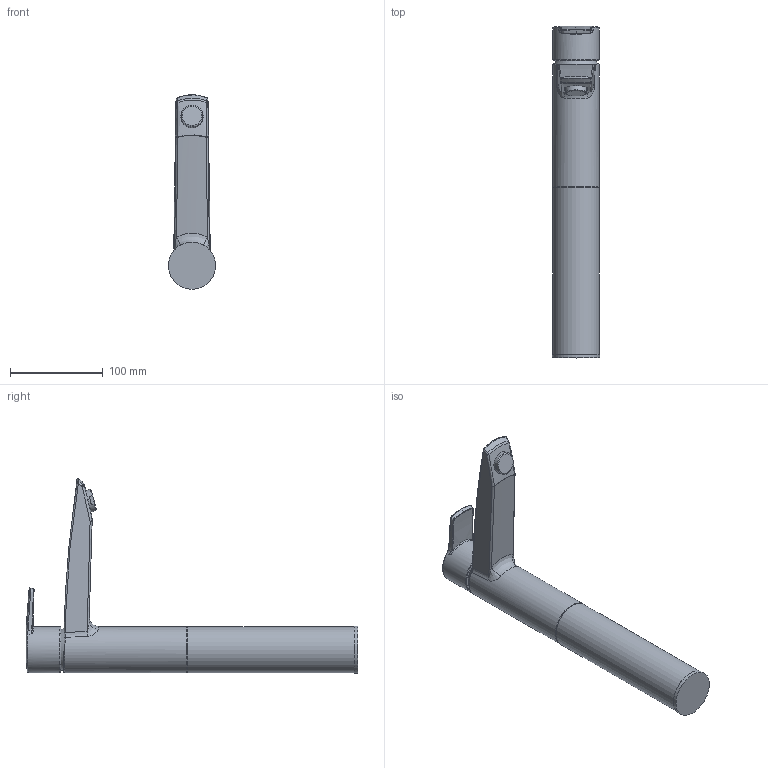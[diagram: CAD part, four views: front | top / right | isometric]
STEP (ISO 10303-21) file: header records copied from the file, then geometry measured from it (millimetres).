
FILE_DESCRIPTION (( 'STEP AP203' ), '1' );
FILE_NAME ('2801+2801F.STEP', '2017-03-09T05:48:43', ( '' ), ( '' ), 'SwSTEP 2.0', 'SolidWorks 2016', '' );
FILE_SCHEMA (( 'CONFIG_CONTROL_DESIGN' ));
Length unit declared in the file: millimetre
Products named in the file (1): 2801+2801F
Bounding box: 51 x 358.84 x 210.19 mm (x, y, z)
Volume: 843295.4 mm3; surface area: 81744.2 mm2
Topology: 1 solids, 1 shells, 87 faces, 208 edges, 127 vertices
Faces by surface type: bspline 64, plane 8, torus 6, cylinder 5, sphere 3, cone 1
Full cylindrical faces by diameter (mm): 24 x1, 49.6 x1, 50 x2, 51 x1
Entity records: 10398 total; most frequent: CARTESIAN_POINT 8906, ORIENTED_EDGE 380, EDGE_CURVE 190, DIRECTION 136, B_SPLINE_CURVE_WITH_KNOTS 127, VERTEX_POINT 122, EDGE_LOOP 104, FACE_OUTER_BOUND 98
